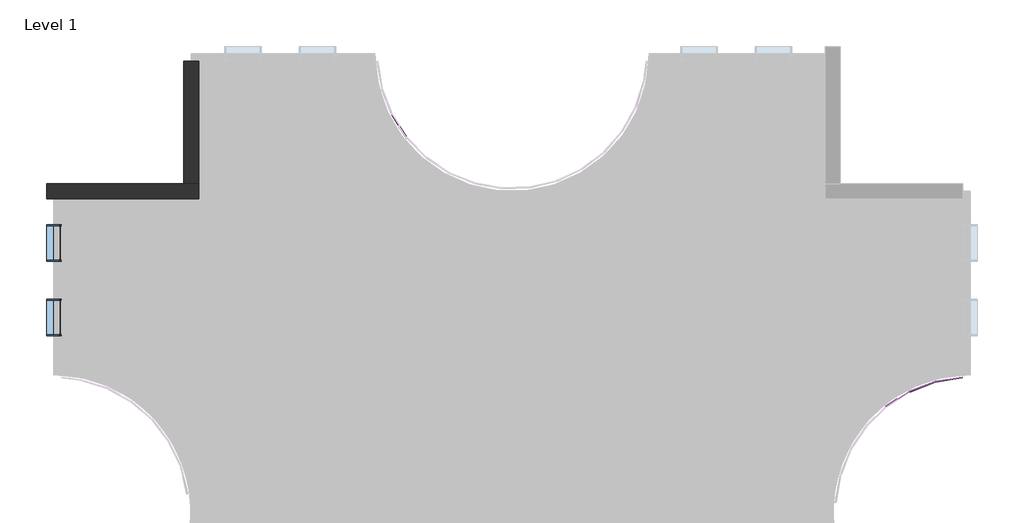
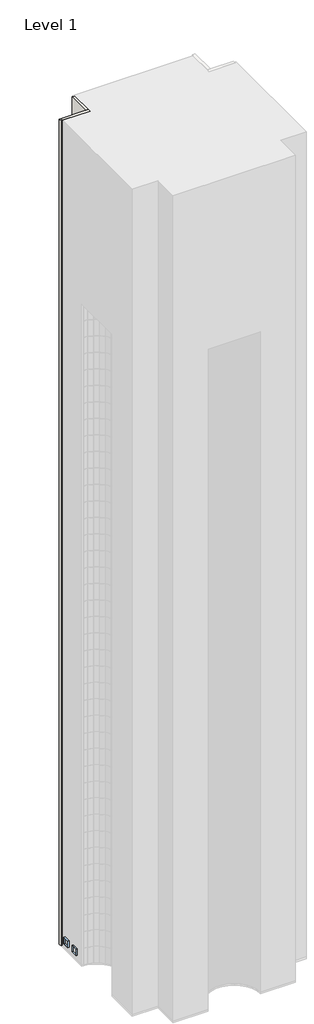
# One storey, part 15 of 20: 118 plates, 2 walls, 2 windows.
"""IFC4 building model written with IfcOpenShell, lengths in millimetres."""

from ifc_helpers import new_model, si_unit, origin, origin_with_axes, place, context, project, spatial, polyline, outline, extrude, faceted_brep, transform, mapped, element, save
from components import system_panel_glazed_d77d1ebf, window_d0035ecf, window_d434eb62

model = new_model("IFC4")

# Units and contexts
model_context = context("Model", 3, world=origin())
ifc_project = project(units=[si_unit("LENGTHUNIT", "METRE", prefix="MILLI")], contexts=[model_context])

# Site, building, storey
site = spatial("IfcSite", under=ifc_project)
building = spatial("IfcBuilding", under=site)
storey = spatial("IfcBuildingStorey", under=building, Name="Level 1", Elevation=0.0)

# Plates
placement = place(None, origin())
system_panel_glazed_shape = system_panel_glazed_d77d1ebf(model_context)
element("IfcPlate", 1, ObjectType="System Panel : Glazed", at=placement, inside=storey, context=model_context, shape_type="MappedRepresentation", body=[
    mapped(system_panel_glazed_shape, transform((18055.406941, -1819.8011089, 0.0), x_axis=(-0.9873252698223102, -0.1587098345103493, 0.0), y_axis=(0.1587098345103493, -0.9873252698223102, 0.0), z_axis=(0.0, 0.0, 1.0))),
])
element("IfcPlate", 2, ObjectType="System Panel : Glazed", at=placement, inside=storey, context=model_context, shape_type="MappedRepresentation", body=[
    mapped(system_panel_glazed_shape, transform((18055.406941, -1819.8011089, 3048.0), x_axis=(-0.9873252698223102, -0.1587098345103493, 0.0), y_axis=(0.1587098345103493, -0.9873252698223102, 0.0), z_axis=(0.0, 0.0, 1.0))),
])
element("IfcPlate", 3, ObjectType="System Panel : Glazed", at=placement, inside=storey, context=model_context, shape_type="MappedRepresentation", body=[
    mapped(system_panel_glazed_shape, transform((18055.406941, -1819.8011089, 6096.0), x_axis=(-0.9873252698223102, -0.1587098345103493, 0.0), y_axis=(0.1587098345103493, -0.9873252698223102, 0.0), z_axis=(0.0, 0.0, 1.0))),
])
element("IfcPlate", 4, ObjectType="System Panel : Glazed", at=placement, inside=storey, context=model_context, shape_type="MappedRepresentation", body=[
    mapped(system_panel_glazed_shape, transform((18055.406941, -1819.8011089, 9144.0), x_axis=(-0.9873252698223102, -0.1587098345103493, 0.0), y_axis=(0.1587098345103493, -0.9873252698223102, 0.0), z_axis=(0.0, 0.0, 1.0))),
])
element("IfcPlate", 5, ObjectType="System Panel : Glazed", at=placement, inside=storey, context=model_context, shape_type="MappedRepresentation", body=[
    mapped(system_panel_glazed_shape, transform((18055.406941, -1819.8011089, 12192.0), x_axis=(-0.9873252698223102, -0.1587098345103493, 0.0), y_axis=(0.1587098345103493, -0.9873252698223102, 0.0), z_axis=(0.0, 0.0, 1.0))),
])
element("IfcPlate", 6, ObjectType="System Panel : Glazed", at=placement, inside=storey, context=model_context, shape_type="MappedRepresentation", body=[
    mapped(system_panel_glazed_shape, transform((18055.406941, -1819.8011089, 15240.0), x_axis=(-0.9873252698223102, -0.1587098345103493, 0.0), y_axis=(0.1587098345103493, -0.9873252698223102, 0.0), z_axis=(0.0, 0.0, 1.0))),
])
element("IfcPlate", 7, ObjectType="System Panel : Glazed", at=placement, inside=storey, context=model_context, shape_type="MappedRepresentation", body=[
    mapped(system_panel_glazed_shape, transform((18055.406941, -1819.8011089, 18288.0), x_axis=(-0.9873252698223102, -0.15870983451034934, 0.0), y_axis=(0.15870983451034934, -0.9873252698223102, 0.0), z_axis=(0.0, 0.0, 1.0))),
])
element("IfcPlate", 8, ObjectType="System Panel : Glazed", at=placement, inside=storey, context=model_context, shape_type="MappedRepresentation", body=[
    mapped(system_panel_glazed_shape, transform((18055.406941, -1819.8011089, 21336.0), x_axis=(-0.9873252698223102, -0.1587098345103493, 0.0), y_axis=(0.1587098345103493, -0.9873252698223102, 0.0), z_axis=(0.0, 0.0, 1.0))),
])
element("IfcPlate", 9, ObjectType="System Panel : Glazed", at=placement, inside=storey, context=model_context, shape_type="MappedRepresentation", body=[
    mapped(system_panel_glazed_shape, transform((18055.406941, -1819.8011089, 24384.0), x_axis=(-0.9873252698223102, -0.1587098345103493, 0.0), y_axis=(0.1587098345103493, -0.9873252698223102, 0.0), z_axis=(0.0, 0.0, 1.0))),
])
element("IfcPlate", 10, ObjectType="System Panel : Glazed", at=placement, inside=storey, context=model_context, shape_type="MappedRepresentation", body=[
    mapped(system_panel_glazed_shape, transform((18055.406941, -1819.8011089, 27432.0), x_axis=(-0.9873252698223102, -0.1587098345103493, 0.0), y_axis=(0.1587098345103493, -0.9873252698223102, 0.0), z_axis=(0.0, 0.0, 1.0))),
])
element("IfcPlate", 11, ObjectType="System Panel : Glazed", at=placement, inside=storey, context=model_context, shape_type="MappedRepresentation", body=[
    mapped(system_panel_glazed_shape, transform((18055.406941, -1819.8011089, 30480.0), x_axis=(-0.9873252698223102, -0.1587098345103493, 0.0), y_axis=(0.1587098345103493, -0.9873252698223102, 0.0), z_axis=(0.0, 0.0, 1.0))),
])
element("IfcPlate", 12, ObjectType="System Panel : Glazed", at=placement, inside=storey, context=model_context, shape_type="MappedRepresentation", body=[
    mapped(system_panel_glazed_shape, transform((18055.406941, -1819.8011089, 33528.0), x_axis=(-0.9873252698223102, -0.1587098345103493, 0.0), y_axis=(0.1587098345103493, -0.9873252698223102, 0.0), z_axis=(0.0, 0.0, 1.0))),
])
element("IfcPlate", 13, ObjectType="System Panel : Glazed", at=placement, inside=storey, context=model_context, shape_type="MappedRepresentation", body=[
    mapped(system_panel_glazed_shape, transform((18055.406941, -1819.8011089, 36576.0), x_axis=(-0.9873252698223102, -0.1587098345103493, 0.0), y_axis=(0.1587098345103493, -0.9873252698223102, 0.0), z_axis=(0.0, 0.0, 1.0))),
])
element("IfcPlate", 14, ObjectType="System Panel : Glazed", at=placement, inside=storey, context=model_context, shape_type="MappedRepresentation", body=[
    mapped(system_panel_glazed_shape, transform((18055.406941, -1819.8011089, 39624.0), x_axis=(-0.9873252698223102, -0.1587098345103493, 0.0), y_axis=(0.1587098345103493, -0.9873252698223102, 0.0), z_axis=(0.0, 0.0, 1.0))),
])
element("IfcPlate", 15, ObjectType="System Panel : Glazed", at=placement, inside=storey, context=model_context, shape_type="MappedRepresentation", body=[
    mapped(system_panel_glazed_shape, transform((18055.406941, -1819.8011089, 42672.0), x_axis=(-0.9873252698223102, -0.1587098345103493, 0.0), y_axis=(0.1587098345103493, -0.9873252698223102, 0.0), z_axis=(0.0, 0.0, 1.0))),
])
element("IfcPlate", 16, ObjectType="System Panel : Glazed", at=placement, inside=storey, context=model_context, shape_type="MappedRepresentation", body=[
    mapped(system_panel_glazed_shape, transform((18055.406941, -1819.8011089, 45720.0), x_axis=(-0.9873252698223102, -0.1587098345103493, 0.0), y_axis=(0.1587098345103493, -0.9873252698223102, 0.0), z_axis=(0.0, 0.0, 1.0))),
])
element("IfcPlate", 17, ObjectType="System Panel : Glazed", at=placement, inside=storey, context=model_context, shape_type="MappedRepresentation", body=[
    mapped(system_panel_glazed_shape, transform((18055.406941, -1819.8011089, 48768.0), x_axis=(-0.9873252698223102, -0.1587098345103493, 0.0), y_axis=(0.1587098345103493, -0.9873252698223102, 0.0), z_axis=(0.0, 0.0, 1.0))),
])
element("IfcPlate", 18, ObjectType="System Panel : Glazed", at=placement, inside=storey, context=model_context, shape_type="MappedRepresentation", body=[
    mapped(system_panel_glazed_shape, transform((18055.406941, -1819.8011089, 51816.0), x_axis=(-0.9873252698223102, -0.1587098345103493, 0.0), y_axis=(0.1587098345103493, -0.9873252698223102, 0.0), z_axis=(0.0, 0.0, 1.0))),
])
element("IfcPlate", 19, ObjectType="System Panel : Glazed", at=placement, inside=storey, context=model_context, shape_type="MappedRepresentation", body=[
    mapped(system_panel_glazed_shape, transform((18055.406941, -1819.8011089, 54864.0), x_axis=(-0.9873252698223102, -0.1587098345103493, 0.0), y_axis=(0.1587098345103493, -0.9873252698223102, 0.0), z_axis=(0.0, 0.0, 1.0))),
])
element("IfcPlate", 20, ObjectType="System Panel : Glazed", at=placement, inside=storey, context=model_context, shape_type="MappedRepresentation", body=[
    mapped(system_panel_glazed_shape, transform((18055.406941, -1819.8011089, 57912.0), x_axis=(-0.9873252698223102, -0.1587098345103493, 0.0), y_axis=(0.1587098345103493, -0.9873252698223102, 0.0), z_axis=(0.0, 0.0, 1.0))),
])
element("IfcPlate", 21, ObjectType="System Panel : Glazed", at=placement, inside=storey, context=model_context, shape_type="MappedRepresentation", body=[
    mapped(system_panel_glazed_shape, transform((18055.406941, -1819.8011089, 60960.0), x_axis=(-0.9873252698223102, -0.1587098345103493, 0.0), y_axis=(0.1587098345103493, -0.9873252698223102, 0.0), z_axis=(0.0, 0.0, 1.0))),
])
element("IfcPlate", 22, ObjectType="System Panel : Glazed", at=placement, inside=storey, context=model_context, shape_type="MappedRepresentation", body=[
    mapped(system_panel_glazed_shape, transform((18055.406941, -1819.8011089, 64008.0), x_axis=(-0.9873252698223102, -0.1587098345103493, 0.0), y_axis=(0.1587098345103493, -0.9873252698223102, 0.0), z_axis=(0.0, 0.0, 1.0))),
])
element("IfcPlate", 23, ObjectType="System Panel : Glazed", at=placement, inside=storey, context=model_context, shape_type="MappedRepresentation", body=[
    mapped(system_panel_glazed_shape, transform((18055.406941, -1819.8011089, 67056.0), x_axis=(-0.9873252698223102, -0.1587098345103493, 0.0), y_axis=(0.1587098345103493, -0.9873252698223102, 0.0), z_axis=(0.0, 0.0, 1.0))),
])
element("IfcPlate", 24, ObjectType="System Panel : Glazed", at=placement, inside=storey, context=model_context, shape_type="MappedRepresentation", body=[
    mapped(system_panel_glazed_shape, transform((18055.406941, -1819.8011089, 70104.0), x_axis=(-0.9873252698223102, -0.1587098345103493, 0.0), y_axis=(0.1587098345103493, -0.9873252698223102, 0.0), z_axis=(0.0, 0.0, 1.0))),
])
element("IfcPlate", 25, ObjectType="System Panel : Glazed", at=placement, inside=storey, context=model_context, shape_type="MappedRepresentation", body=[
    mapped(system_panel_glazed_shape, transform((18055.406941, -1819.8011089, 73152.0), x_axis=(-0.9873252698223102, -0.1587098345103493, 0.0), y_axis=(0.1587098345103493, -0.9873252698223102, 0.0), z_axis=(0.0, 0.0, 1.0))),
])
element("IfcPlate", 26, ObjectType="System Panel : Glazed", at=placement, inside=storey, context=model_context, shape_type="MappedRepresentation", body=[
    mapped(system_panel_glazed_shape, transform((18055.406941, -1819.8011089, 76200.0), x_axis=(-0.9873252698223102, -0.1587098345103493, 0.0), y_axis=(0.1587098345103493, -0.9873252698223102, 0.0), z_axis=(0.0, 0.0, 1.0))),
])
element("IfcPlate", 27, ObjectType="System Panel : Glazed", at=placement, inside=storey, context=model_context, shape_type="MappedRepresentation", body=[
    mapped(system_panel_glazed_shape, transform((18055.406941, -1819.8011089, 79248.0), x_axis=(-0.9873252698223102, -0.1587098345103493, 0.0), y_axis=(0.1587098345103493, -0.9873252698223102, 0.0), z_axis=(0.0, 0.0, 1.0))),
])
element("IfcPlate", 28, ObjectType="System Panel : Glazed", at=placement, inside=storey, context=model_context, shape_type="MappedRepresentation", body=[
    mapped(system_panel_glazed_shape, transform((18055.406941, -1819.8011089, 82296.0), x_axis=(-0.9873252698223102, -0.1587098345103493, 0.0), y_axis=(0.1587098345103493, -0.9873252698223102, 0.0), z_axis=(0.0, 0.0, 1.0))),
])
element("IfcPlate", 29, ObjectType="System Panel : Glazed", at=placement, inside=storey, context=model_context, shape_type="MappedRepresentation", body=[
    mapped(system_panel_glazed_shape, transform((18055.406941, -1819.8011089, 85344.0), x_axis=(-0.9873252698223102, -0.1587098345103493, 0.0), y_axis=(0.1587098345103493, -0.9873252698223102, 0.0), z_axis=(0.0, 0.0, 1.0))),
])
element("IfcPlate", 30, ObjectType="System Panel : Glazed", at=placement, inside=storey, context=model_context, shape_type="MappedRepresentation", body=[
    mapped(system_panel_glazed_shape, transform((18055.406941, -1819.8011089, 88392.0), x_axis=(-0.9873252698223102, -0.1587098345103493, 0.0), y_axis=(0.1587098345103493, -0.9873252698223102, 0.0), z_axis=(0.0, 0.0, 1.0))),
])
element("IfcPlate", 31, ObjectType="System Panel : Glazed", at=placement, inside=storey, context=model_context, shape_type="MappedRepresentation", body=[
    mapped(system_panel_glazed_shape, transform((18055.406941, -1819.8011089, 91440.0), x_axis=(-0.9873252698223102, -0.1587098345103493, 0.0), y_axis=(0.1587098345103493, -0.9873252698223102, 0.0), z_axis=(0.0, 0.0, 1.0))),
])
element("IfcPlate", 32, ObjectType="System Panel : Glazed", at=placement, inside=storey, context=model_context, shape_type="MappedRepresentation", body=[
    mapped(system_panel_glazed_shape, transform((18055.406941, -1819.8011089, 94488.0), x_axis=(-0.9873252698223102, -0.1587098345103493, 0.0), y_axis=(0.1587098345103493, -0.9873252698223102, 0.0), z_axis=(0.0, 0.0, 1.0))),
])
element("IfcPlate", 33, ObjectType="System Panel : Glazed", at=placement, inside=storey, context=model_context, shape_type="MappedRepresentation", body=[
    mapped(system_panel_glazed_shape, transform((18055.406941, -1819.8011089, 97536.0), x_axis=(-0.9873252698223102, -0.1587098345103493, 0.0), y_axis=(0.1587098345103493, -0.9873252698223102, 0.0), z_axis=(0.0, 0.0, 1.0))),
])
element("IfcPlate", 34, ObjectType="System Panel : Glazed", at=placement, inside=storey, context=model_context, shape_type="MappedRepresentation", body=[
    mapped(system_panel_glazed_shape, transform((18055.406941, -1819.8011089, 100584.0), x_axis=(-0.9873252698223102, -0.1587098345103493, 0.0), y_axis=(0.1587098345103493, -0.9873252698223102, 0.0), z_axis=(0.0, 0.0, 1.0))),
])
element("IfcPlate", 35, ObjectType="System Panel : Glazed", at=placement, inside=storey, context=model_context, shape_type="MappedRepresentation", body=[
    mapped(system_panel_glazed_shape, transform((16365.3324925, -2466.2258707, 73152.0), x_axis=(-0.8412279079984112, -0.540680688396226, 0.0), y_axis=(0.540680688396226, -0.8412279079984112, 0.0), z_axis=(0.0, 0.0, 1.0))),
])
element("IfcPlate", 36, ObjectType="System Panel : Glazed", at=placement, inside=storey, context=model_context, shape_type="MappedRepresentation", body=[
    mapped(system_panel_glazed_shape, transform((16365.3324925, -2466.2258707, 76200.0), x_axis=(-0.8412279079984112, -0.540680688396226, 0.0), y_axis=(0.540680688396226, -0.8412279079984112, 0.0), z_axis=(0.0, 0.0, 1.0))),
])
element("IfcPlate", 37, ObjectType="System Panel : Glazed", at=placement, inside=storey, context=model_context, shape_type="MappedRepresentation", body=[
    mapped(system_panel_glazed_shape, transform((16365.3324925, -2466.2258707, 79248.0), x_axis=(-0.8412279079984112, -0.540680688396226, 0.0), y_axis=(0.540680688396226, -0.8412279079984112, 0.0), z_axis=(0.0, 0.0, 1.0))),
])
element("IfcPlate", 38, ObjectType="System Panel : Glazed", at=placement, inside=storey, context=model_context, shape_type="MappedRepresentation", body=[
    mapped(system_panel_glazed_shape, transform((16365.3324925, -2466.2258707, 82296.0), x_axis=(-0.8412279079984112, -0.540680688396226, 0.0), y_axis=(0.540680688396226, -0.8412279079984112, 0.0), z_axis=(0.0, 0.0, 1.0))),
])
element("IfcPlate", 39, ObjectType="System Panel : Glazed", at=placement, inside=storey, context=model_context, shape_type="MappedRepresentation", body=[
    mapped(system_panel_glazed_shape, transform((16365.3324925, -2466.2258707, 85344.0), x_axis=(-0.8412279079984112, -0.540680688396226, 0.0), y_axis=(0.540680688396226, -0.8412279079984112, 0.0), z_axis=(0.0, 0.0, 1.0))),
])
element("IfcPlate", 40, ObjectType="System Panel : Glazed", at=placement, inside=storey, context=model_context, shape_type="MappedRepresentation", body=[
    mapped(system_panel_glazed_shape, transform((16365.3324925, -2466.2258707, 88392.0), x_axis=(-0.8412279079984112, -0.540680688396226, 0.0), y_axis=(0.540680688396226, -0.8412279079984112, 0.0), z_axis=(0.0, 0.0, 1.0))),
])
element("IfcPlate", 41, ObjectType="System Panel : Glazed", at=placement, inside=storey, context=model_context, shape_type="MappedRepresentation", body=[
    mapped(system_panel_glazed_shape, transform((16365.3324925, -2466.2258707, 91440.0), x_axis=(-0.8412279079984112, -0.540680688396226, 0.0), y_axis=(0.540680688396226, -0.8412279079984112, 0.0), z_axis=(0.0, 0.0, 1.0))),
])
element("IfcPlate", 42, ObjectType="System Panel : Glazed", at=placement, inside=storey, context=model_context, shape_type="MappedRepresentation", body=[
    mapped(system_panel_glazed_shape, transform((16365.3324925, -2466.2258707, 94488.0), x_axis=(-0.8412279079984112, -0.540680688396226, 0.0), y_axis=(0.540680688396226, -0.8412279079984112, 0.0), z_axis=(0.0, 0.0, 1.0))),
])
element("IfcPlate", 43, ObjectType="System Panel : Glazed", at=placement, inside=storey, context=model_context, shape_type="MappedRepresentation", body=[
    mapped(system_panel_glazed_shape, transform((16365.3324925, -2466.2258707, 97536.0), x_axis=(-0.8412279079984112, -0.540680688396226, 0.0), y_axis=(0.540680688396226, -0.8412279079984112, 0.0), z_axis=(0.0, 0.0, 1.0))),
])
element("IfcPlate", 44, ObjectType="System Panel : Glazed", at=placement, inside=storey, context=model_context, shape_type="MappedRepresentation", body=[
    mapped(system_panel_glazed_shape, transform((16365.3324925, -2466.2258707, 100584.0), x_axis=(-0.8412279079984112, -0.540680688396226, 0.0), y_axis=(0.540680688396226, -0.8412279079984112, 0.0), z_axis=(0.0, 0.0, 1.0))),
])
element("IfcPlate", 45, ObjectType="System Panel : Glazed", at=placement, inside=storey, context=model_context, shape_type="MappedRepresentation", body=[
    mapped(system_panel_glazed_shape, transform((17176.9718599, -2055.6949526, 0.0), x_axis=(-0.9340113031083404, -0.35724345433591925, 0.0), y_axis=(0.35724345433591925, -0.9340113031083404, 0.0), z_axis=(0.0, 0.0, 1.0))),
])
element("IfcPlate", 46, ObjectType="System Panel : Glazed", at=placement, inside=storey, context=model_context, shape_type="MappedRepresentation", body=[
    mapped(system_panel_glazed_shape, transform((17176.9718599, -2055.6949526, 3048.0), x_axis=(-0.9340113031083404, -0.35724345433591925, 0.0), y_axis=(0.35724345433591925, -0.9340113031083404, 0.0), z_axis=(0.0, 0.0, 1.0))),
])
element("IfcPlate", 47, ObjectType="System Panel : Glazed", at=placement, inside=storey, context=model_context, shape_type="MappedRepresentation", body=[
    mapped(system_panel_glazed_shape, transform((17176.9718599, -2055.6949526, 6096.0), x_axis=(-0.9340113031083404, -0.35724345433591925, 0.0), y_axis=(0.35724345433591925, -0.9340113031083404, 0.0), z_axis=(0.0, 0.0, 1.0))),
])
element("IfcPlate", 48, ObjectType="System Panel : Glazed", at=placement, inside=storey, context=model_context, shape_type="MappedRepresentation", body=[
    mapped(system_panel_glazed_shape, transform((17176.9718599, -2055.6949526, 9144.0), x_axis=(-0.9340113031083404, -0.35724345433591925, 0.0), y_axis=(0.35724345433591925, -0.9340113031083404, 0.0), z_axis=(0.0, 0.0, 1.0))),
])
element("IfcPlate", 49, ObjectType="System Panel : Glazed", at=placement, inside=storey, context=model_context, shape_type="MappedRepresentation", body=[
    mapped(system_panel_glazed_shape, transform((17176.9718599, -2055.6949526, 12192.0), x_axis=(-0.9340113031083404, -0.35724345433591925, 0.0), y_axis=(0.35724345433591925, -0.9340113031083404, 0.0), z_axis=(0.0, 0.0, 1.0))),
])
element("IfcPlate", 50, ObjectType="System Panel : Glazed", at=placement, inside=storey, context=model_context, shape_type="MappedRepresentation", body=[
    mapped(system_panel_glazed_shape, transform((17176.9718599, -2055.6949526, 15240.0), x_axis=(-0.9340113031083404, -0.35724345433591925, 0.0), y_axis=(0.35724345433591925, -0.9340113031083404, 0.0), z_axis=(0.0, 0.0, 1.0))),
])
element("IfcPlate", 51, ObjectType="System Panel : Glazed", at=placement, inside=storey, context=model_context, shape_type="MappedRepresentation", body=[
    mapped(system_panel_glazed_shape, transform((17176.9718599, -2055.6949526, 18288.0), x_axis=(-0.9340113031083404, -0.3572434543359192, 0.0), y_axis=(0.3572434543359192, -0.9340113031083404, 0.0), z_axis=(0.0, 0.0, 1.0))),
])
element("IfcPlate", 52, ObjectType="System Panel : Glazed", at=placement, inside=storey, context=model_context, shape_type="MappedRepresentation", body=[
    mapped(system_panel_glazed_shape, transform((17176.9718599, -2055.6949526, 21336.0), x_axis=(-0.9340113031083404, -0.35724345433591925, 0.0), y_axis=(0.35724345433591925, -0.9340113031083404, 0.0), z_axis=(0.0, 0.0, 1.0))),
])
element("IfcPlate", 53, ObjectType="System Panel : Glazed", at=placement, inside=storey, context=model_context, shape_type="MappedRepresentation", body=[
    mapped(system_panel_glazed_shape, transform((17176.9718599, -2055.6949526, 24384.0), x_axis=(-0.9340113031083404, -0.35724345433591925, 0.0), y_axis=(0.35724345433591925, -0.9340113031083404, 0.0), z_axis=(0.0, 0.0, 1.0))),
])
element("IfcPlate", 54, ObjectType="System Panel : Glazed", at=placement, inside=storey, context=model_context, shape_type="MappedRepresentation", body=[
    mapped(system_panel_glazed_shape, transform((17176.9718599, -2055.6949526, 27432.0), x_axis=(-0.9340113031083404, -0.35724345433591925, 0.0), y_axis=(0.35724345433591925, -0.9340113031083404, 0.0), z_axis=(0.0, 0.0, 1.0))),
])
element("IfcPlate", 55, ObjectType="System Panel : Glazed", at=placement, inside=storey, context=model_context, shape_type="MappedRepresentation", body=[
    mapped(system_panel_glazed_shape, transform((17176.9718599, -2055.6949526, 30480.0), x_axis=(-0.9340113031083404, -0.35724345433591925, 0.0), y_axis=(0.35724345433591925, -0.9340113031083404, 0.0), z_axis=(0.0, 0.0, 1.0))),
])
element("IfcPlate", 56, ObjectType="System Panel : Glazed", at=placement, inside=storey, context=model_context, shape_type="MappedRepresentation", body=[
    mapped(system_panel_glazed_shape, transform((17176.9718599, -2055.6949526, 33528.0), x_axis=(-0.9340113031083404, -0.35724345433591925, 0.0), y_axis=(0.35724345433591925, -0.9340113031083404, 0.0), z_axis=(0.0, 0.0, 1.0))),
])
element("IfcPlate", 57, ObjectType="System Panel : Glazed", at=placement, inside=storey, context=model_context, shape_type="MappedRepresentation", body=[
    mapped(system_panel_glazed_shape, transform((17176.9718599, -2055.6949526, 36576.0), x_axis=(-0.9340113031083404, -0.35724345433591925, 0.0), y_axis=(0.35724345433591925, -0.9340113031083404, 0.0), z_axis=(0.0, 0.0, 1.0))),
])
element("IfcPlate", 58, ObjectType="System Panel : Glazed", at=placement, inside=storey, context=model_context, shape_type="MappedRepresentation", body=[
    mapped(system_panel_glazed_shape, transform((17176.9718599, -2055.6949526, 39624.0), x_axis=(-0.9340113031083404, -0.35724345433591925, 0.0), y_axis=(0.35724345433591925, -0.9340113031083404, 0.0), z_axis=(0.0, 0.0, 1.0))),
])
element("IfcPlate", 59, ObjectType="System Panel : Glazed", at=placement, inside=storey, context=model_context, shape_type="MappedRepresentation", body=[
    mapped(system_panel_glazed_shape, transform((17176.9718599, -2055.6949526, 42672.0), x_axis=(-0.9340113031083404, -0.35724345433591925, 0.0), y_axis=(0.35724345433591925, -0.9340113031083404, 0.0), z_axis=(0.0, 0.0, 1.0))),
])
element("IfcPlate", 60, ObjectType="System Panel : Glazed", at=placement, inside=storey, context=model_context, shape_type="MappedRepresentation", body=[
    mapped(system_panel_glazed_shape, transform((17176.9718599, -2055.6949526, 45720.0), x_axis=(-0.9340113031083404, -0.35724345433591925, 0.0), y_axis=(0.35724345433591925, -0.9340113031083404, 0.0), z_axis=(0.0, 0.0, 1.0))),
])
element("IfcPlate", 61, ObjectType="System Panel : Glazed", at=placement, inside=storey, context=model_context, shape_type="MappedRepresentation", body=[
    mapped(system_panel_glazed_shape, transform((17176.9718599, -2055.6949526, 48768.0), x_axis=(-0.9340113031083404, -0.35724345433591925, 0.0), y_axis=(0.35724345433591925, -0.9340113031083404, 0.0), z_axis=(0.0, 0.0, 1.0))),
])
element("IfcPlate", 62, ObjectType="System Panel : Glazed", at=placement, inside=storey, context=model_context, shape_type="MappedRepresentation", body=[
    mapped(system_panel_glazed_shape, transform((17176.9718599, -2055.6949526, 51816.0), x_axis=(-0.9340113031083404, -0.35724345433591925, 0.0), y_axis=(0.35724345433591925, -0.9340113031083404, 0.0), z_axis=(0.0, 0.0, 1.0))),
])
element("IfcPlate", 63, ObjectType="System Panel : Glazed", at=placement, inside=storey, context=model_context, shape_type="MappedRepresentation", body=[
    mapped(system_panel_glazed_shape, transform((17176.9718599, -2055.6949526, 54864.0), x_axis=(-0.9340113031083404, -0.35724345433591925, 0.0), y_axis=(0.35724345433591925, -0.9340113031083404, 0.0), z_axis=(0.0, 0.0, 1.0))),
])
element("IfcPlate", 64, ObjectType="System Panel : Glazed", at=placement, inside=storey, context=model_context, shape_type="MappedRepresentation", body=[
    mapped(system_panel_glazed_shape, transform((17176.9718599, -2055.6949526, 57912.0), x_axis=(-0.9340113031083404, -0.35724345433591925, 0.0), y_axis=(0.35724345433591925, -0.9340113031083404, 0.0), z_axis=(0.0, 0.0, 1.0))),
])
element("IfcPlate", 65, ObjectType="System Panel : Glazed", at=placement, inside=storey, context=model_context, shape_type="MappedRepresentation", body=[
    mapped(system_panel_glazed_shape, transform((17176.9718599, -2055.6949526, 60960.0), x_axis=(-0.9340113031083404, -0.35724345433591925, 0.0), y_axis=(0.35724345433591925, -0.9340113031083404, 0.0), z_axis=(0.0, 0.0, 1.0))),
])
element("IfcPlate", 66, ObjectType="System Panel : Glazed", at=placement, inside=storey, context=model_context, shape_type="MappedRepresentation", body=[
    mapped(system_panel_glazed_shape, transform((17176.9718599, -2055.6949526, 64008.0), x_axis=(-0.9340113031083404, -0.35724345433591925, 0.0), y_axis=(0.35724345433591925, -0.9340113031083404, 0.0), z_axis=(0.0, 0.0, 1.0))),
])
element("IfcPlate", 67, ObjectType="System Panel : Glazed", at=placement, inside=storey, context=model_context, shape_type="MappedRepresentation", body=[
    mapped(system_panel_glazed_shape, transform((17176.9718599, -2055.6949526, 67056.0), x_axis=(-0.9340113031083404, -0.35724345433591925, 0.0), y_axis=(0.35724345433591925, -0.9340113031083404, 0.0), z_axis=(0.0, 0.0, 1.0))),
])
element("IfcPlate", 68, ObjectType="System Panel : Glazed", at=placement, inside=storey, context=model_context, shape_type="MappedRepresentation", body=[
    mapped(system_panel_glazed_shape, transform((17176.9718599, -2055.6949526, 70104.0), x_axis=(-0.9340113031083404, -0.35724345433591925, 0.0), y_axis=(0.35724345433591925, -0.9340113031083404, 0.0), z_axis=(0.0, 0.0, 1.0))),
])
element("IfcPlate", 69, ObjectType="System Panel : Glazed", at=placement, inside=storey, context=model_context, shape_type="MappedRepresentation", body=[
    mapped(system_panel_glazed_shape, transform((17176.9718599, -2055.6949526, 73152.0), x_axis=(-0.9340113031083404, -0.35724345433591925, 0.0), y_axis=(0.35724345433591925, -0.9340113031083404, 0.0), z_axis=(0.0, 0.0, 1.0))),
])
element("IfcPlate", 70, ObjectType="System Panel : Glazed", at=placement, inside=storey, context=model_context, shape_type="MappedRepresentation", body=[
    mapped(system_panel_glazed_shape, transform((17176.9718599, -2055.6949526, 76200.0), x_axis=(-0.9340113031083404, -0.35724345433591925, 0.0), y_axis=(0.35724345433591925, -0.9340113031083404, 0.0), z_axis=(0.0, 0.0, 1.0))),
])
element("IfcPlate", 71, ObjectType="System Panel : Glazed", at=placement, inside=storey, context=model_context, shape_type="MappedRepresentation", body=[
    mapped(system_panel_glazed_shape, transform((17176.9718599, -2055.6949526, 79248.0), x_axis=(-0.9340113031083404, -0.35724345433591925, 0.0), y_axis=(0.35724345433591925, -0.9340113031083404, 0.0), z_axis=(0.0, 0.0, 1.0))),
])
element("IfcPlate", 72, ObjectType="System Panel : Glazed", at=placement, inside=storey, context=model_context, shape_type="MappedRepresentation", body=[
    mapped(system_panel_glazed_shape, transform((17176.9718599, -2055.6949526, 82296.0), x_axis=(-0.9340113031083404, -0.35724345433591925, 0.0), y_axis=(0.35724345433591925, -0.9340113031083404, 0.0), z_axis=(0.0, 0.0, 1.0))),
])
element("IfcPlate", 73, ObjectType="System Panel : Glazed", at=placement, inside=storey, context=model_context, shape_type="MappedRepresentation", body=[
    mapped(system_panel_glazed_shape, transform((17176.9718599, -2055.6949526, 85344.0), x_axis=(-0.9340113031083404, -0.35724345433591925, 0.0), y_axis=(0.35724345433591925, -0.9340113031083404, 0.0), z_axis=(0.0, 0.0, 1.0))),
])
element("IfcPlate", 74, ObjectType="System Panel : Glazed", at=placement, inside=storey, context=model_context, shape_type="MappedRepresentation", body=[
    mapped(system_panel_glazed_shape, transform((17176.9718599, -2055.6949526, 88392.0), x_axis=(-0.9340113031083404, -0.35724345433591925, 0.0), y_axis=(0.35724345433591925, -0.9340113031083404, 0.0), z_axis=(0.0, 0.0, 1.0))),
])
element("IfcPlate", 75, ObjectType="System Panel : Glazed", at=placement, inside=storey, context=model_context, shape_type="MappedRepresentation", body=[
    mapped(system_panel_glazed_shape, transform((17176.9718599, -2055.6949526, 91440.0), x_axis=(-0.9340113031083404, -0.35724345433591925, 0.0), y_axis=(0.35724345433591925, -0.9340113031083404, 0.0), z_axis=(0.0, 0.0, 1.0))),
])
element("IfcPlate", 76, ObjectType="System Panel : Glazed", at=placement, inside=storey, context=model_context, shape_type="MappedRepresentation", body=[
    mapped(system_panel_glazed_shape, transform((17176.9718599, -2055.6949526, 94488.0), x_axis=(-0.9340113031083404, -0.35724345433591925, 0.0), y_axis=(0.35724345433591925, -0.9340113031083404, 0.0), z_axis=(0.0, 0.0, 1.0))),
])
element("IfcPlate", 77, ObjectType="System Panel : Glazed", at=placement, inside=storey, context=model_context, shape_type="MappedRepresentation", body=[
    mapped(system_panel_glazed_shape, transform((17176.9718599, -2055.6949526, 97536.0), x_axis=(-0.9340113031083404, -0.35724345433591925, 0.0), y_axis=(0.35724345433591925, -0.9340113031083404, 0.0), z_axis=(0.0, 0.0, 1.0))),
])
element("IfcPlate", 78, ObjectType="System Panel : Glazed", at=placement, inside=storey, context=model_context, shape_type="MappedRepresentation", body=[
    mapped(system_panel_glazed_shape, transform((17176.9718599, -2055.6949526, 100584.0), x_axis=(-0.9340113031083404, -0.35724345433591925, 0.0), y_axis=(0.35724345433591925, -0.9340113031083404, 0.0), z_axis=(0.0, 0.0, 1.0))),
])
element("IfcPlate", 79, ObjectType="System Panel : Glazed", at=placement, inside=storey, context=model_context, shape_type="MappedRepresentation", body=[
    mapped(system_panel_glazed_shape, transform((18055.406941, -1819.8011089, 103632.0), x_axis=(-0.9873252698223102, -0.1587098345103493, 0.0), y_axis=(0.1587098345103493, -0.9873252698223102, 0.0), z_axis=(0.0, 0.0, 1.0))),
])
element("IfcPlate", 80, ObjectType="System Panel : Glazed", at=placement, inside=storey, context=model_context, shape_type="MappedRepresentation", body=[
    mapped(system_panel_glazed_shape, transform((16365.3324925, -2466.2258707, 103632.0), x_axis=(-0.8412279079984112, -0.540680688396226, 0.0), y_axis=(0.540680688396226, -0.8412279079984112, 0.0), z_axis=(0.0, 0.0, 1.0))),
])
element("IfcPlate", 81, ObjectType="System Panel : Glazed", at=placement, inside=storey, context=model_context, shape_type="MappedRepresentation", body=[
    mapped(system_panel_glazed_shape, transform((17176.9718599, -2055.6949526, 103632.0), x_axis=(-0.9340113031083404, -0.35724345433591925, 0.0), y_axis=(0.35724345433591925, -0.9340113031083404, 0.0), z_axis=(0.0, 0.0, 1.0))),
])
element("IfcPlate", 82, ObjectType="System Panel : Glazed", at=placement, inside=storey, context=model_context, shape_type="MappedRepresentation", body=[
    mapped(system_panel_glazed_shape, transform((18055.406941, -1819.8011089, 106680.0), x_axis=(-0.9873252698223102, -0.1587098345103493, 0.0), y_axis=(0.1587098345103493, -0.9873252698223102, 0.0), z_axis=(0.0, 0.0, 1.0))),
])
element("IfcPlate", 83, ObjectType="System Panel : Glazed", at=placement, inside=storey, context=model_context, shape_type="MappedRepresentation", body=[
    mapped(system_panel_glazed_shape, transform((16365.3324925, -2466.2258707, 106680.0), x_axis=(-0.8412279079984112, -0.540680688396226, 0.0), y_axis=(0.540680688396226, -0.8412279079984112, 0.0), z_axis=(0.0, 0.0, 1.0))),
])
element("IfcPlate", 84, ObjectType="System Panel : Glazed", at=placement, inside=storey, context=model_context, shape_type="MappedRepresentation", body=[
    mapped(system_panel_glazed_shape, transform((17176.9718599, -2055.6949526, 106680.0), x_axis=(-0.9340113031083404, -0.35724345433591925, 0.0), y_axis=(0.35724345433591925, -0.9340113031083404, 0.0), z_axis=(0.0, 0.0, 1.0))),
])
element("IfcPlate", 85, ObjectType="System Panel : Glazed", at=placement, inside=storey, context=model_context, shape_type="MappedRepresentation", body=[
    mapped(system_panel_glazed_shape, transform((18055.406941, -1819.8011089, 109728.0), x_axis=(-0.9873252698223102, -0.1587098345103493, 0.0), y_axis=(0.1587098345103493, -0.9873252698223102, 0.0), z_axis=(0.0, 0.0, 1.0))),
])
element("IfcPlate", 86, ObjectType="System Panel : Glazed", at=placement, inside=storey, context=model_context, shape_type="MappedRepresentation", body=[
    mapped(system_panel_glazed_shape, transform((16365.3324925, -2466.2258707, 109728.0), x_axis=(-0.8412279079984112, -0.540680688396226, 0.0), y_axis=(0.540680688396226, -0.8412279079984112, 0.0), z_axis=(0.0, 0.0, 1.0))),
])
element("IfcPlate", 87, ObjectType="System Panel : Glazed", at=placement, inside=storey, context=model_context, shape_type="MappedRepresentation", body=[
    mapped(system_panel_glazed_shape, transform((17176.9718599, -2055.6949526, 109728.0), x_axis=(-0.9340113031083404, -0.35724345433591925, 0.0), y_axis=(0.35724345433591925, -0.9340113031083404, 0.0), z_axis=(0.0, 0.0, 1.0))),
])
element("IfcPlate", 88, ObjectType="System Panel : Glazed", at=placement, inside=storey, context=model_context, shape_type="MappedRepresentation", body=[
    mapped(system_panel_glazed_shape, transform((18055.406941, -1819.8011089, 112776.0), x_axis=(-0.9873252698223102, -0.1587098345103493, 0.0), y_axis=(0.1587098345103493, -0.9873252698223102, 0.0), z_axis=(0.0, 0.0, 1.0))),
])
element("IfcPlate", 89, ObjectType="System Panel : Glazed", at=placement, inside=storey, context=model_context, shape_type="MappedRepresentation", body=[
    mapped(system_panel_glazed_shape, transform((16365.3324925, -2466.2258707, 112776.0), x_axis=(-0.8412279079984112, -0.540680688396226, 0.0), y_axis=(0.540680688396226, -0.8412279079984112, 0.0), z_axis=(0.0, 0.0, 1.0))),
])
element("IfcPlate", 90, ObjectType="System Panel : Glazed", at=placement, inside=storey, context=model_context, shape_type="MappedRepresentation", body=[
    mapped(system_panel_glazed_shape, transform((17176.9718599, -2055.6949526, 112776.0), x_axis=(-0.9340113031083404, -0.35724345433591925, 0.0), y_axis=(0.35724345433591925, -0.9340113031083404, 0.0), z_axis=(0.0, 0.0, 1.0))),
])
element("IfcPlate", 91, ObjectType="System Panel : Glazed", at=placement, inside=storey, context=model_context, shape_type="MappedRepresentation", body=[
    mapped(system_panel_glazed_shape, transform((18055.406941, -1819.8011089, 115824.0), x_axis=(-0.9873252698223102, -0.1587098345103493, 0.0), y_axis=(0.1587098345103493, -0.9873252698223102, 0.0), z_axis=(0.0, 0.0, 1.0))),
])
element("IfcPlate", 92, ObjectType="System Panel : Glazed", at=placement, inside=storey, context=model_context, shape_type="MappedRepresentation", body=[
    mapped(system_panel_glazed_shape, transform((16365.3324925, -2466.2258707, 115824.0), x_axis=(-0.8412279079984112, -0.540680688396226, 0.0), y_axis=(0.540680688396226, -0.8412279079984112, 0.0), z_axis=(0.0, 0.0, 1.0))),
])
element("IfcPlate", 93, ObjectType="System Panel : Glazed", at=placement, inside=storey, context=model_context, shape_type="MappedRepresentation", body=[
    mapped(system_panel_glazed_shape, transform((17176.9718599, -2055.6949526, 115824.0), x_axis=(-0.9340113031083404, -0.35724345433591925, 0.0), y_axis=(0.35724345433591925, -0.9340113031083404, 0.0), z_axis=(0.0, 0.0, 1.0))),
])
element("IfcPlate", 94, ObjectType="System Panel : Glazed", at=placement, inside=storey, context=model_context, shape_type="MappedRepresentation", body=[
    mapped(system_panel_glazed_shape, transform((18055.406941, -1819.8011089, 118872.0), x_axis=(-0.9873252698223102, -0.1587098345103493, 0.0), y_axis=(0.1587098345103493, -0.9873252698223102, 0.0), z_axis=(0.0, 0.0, 1.0))),
])
element("IfcPlate", 95, ObjectType="System Panel : Glazed", at=placement, inside=storey, context=model_context, shape_type="MappedRepresentation", body=[
    mapped(system_panel_glazed_shape, transform((16365.3324925, -2466.2258707, 118872.0), x_axis=(-0.8412279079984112, -0.540680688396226, 0.0), y_axis=(0.540680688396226, -0.8412279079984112, 0.0), z_axis=(0.0, 0.0, 1.0))),
])
element("IfcPlate", 96, ObjectType="System Panel : Glazed", at=placement, inside=storey, context=model_context, shape_type="MappedRepresentation", body=[
    mapped(system_panel_glazed_shape, transform((17176.9718599, -2055.6949526, 118872.0), x_axis=(-0.9340113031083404, -0.35724345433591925, 0.0), y_axis=(0.35724345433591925, -0.9340113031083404, 0.0), z_axis=(0.0, 0.0, 1.0))),
])
element("IfcPlate", 97, ObjectType="System Panel : Glazed", at=placement, inside=storey, context=model_context, shape_type="MappedRepresentation", body=[
    mapped(system_panel_glazed_shape, transform((-204.4736202, 6659.3588929, 0.0), x_axis=(0.5406806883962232, -0.841227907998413, 0.0), y_axis=(0.841227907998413, 0.5406806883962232, 0.0), z_axis=(0.0, 0.0, 1.0))),
])
element("IfcPlate", 98, ObjectType="System Panel : Glazed", at=placement, inside=storey, context=model_context, shape_type="MappedRepresentation", body=[
    mapped(system_panel_glazed_shape, transform((-204.4736202, 6659.3588929, 3048.0), x_axis=(0.5406806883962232, -0.841227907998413, 0.0), y_axis=(0.841227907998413, 0.5406806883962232, 0.0), z_axis=(0.0, 0.0, 1.0))),
])
element("IfcPlate", 99, ObjectType="System Panel : Glazed", at=placement, inside=storey, context=model_context, shape_type="MappedRepresentation", body=[
    mapped(system_panel_glazed_shape, transform((-204.4736202, 6659.3588929, 6096.0), x_axis=(0.5406806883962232, -0.841227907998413, 0.0), y_axis=(0.841227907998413, 0.5406806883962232, 0.0), z_axis=(0.0, 0.0, 1.0))),
])
element("IfcPlate", 100, ObjectType="System Panel : Glazed", at=placement, inside=storey, context=model_context, shape_type="MappedRepresentation", body=[
    mapped(system_panel_glazed_shape, transform((-204.4736202, 6659.3588929, 9144.0), x_axis=(0.5406806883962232, -0.841227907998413, 0.0), y_axis=(0.841227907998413, 0.5406806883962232, 0.0), z_axis=(0.0, 0.0, 1.0))),
])
element("IfcPlate", 101, ObjectType="System Panel : Glazed", at=placement, inside=storey, context=model_context, shape_type="MappedRepresentation", body=[
    mapped(system_panel_glazed_shape, transform((-204.4736202, 6659.3588929, 12192.0), x_axis=(0.5406806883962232, -0.841227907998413, 0.0), y_axis=(0.841227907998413, 0.5406806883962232, 0.0), z_axis=(0.0, 0.0, 1.0))),
])
element("IfcPlate", 102, ObjectType="System Panel : Glazed", at=placement, inside=storey, context=model_context, shape_type="MappedRepresentation", body=[
    mapped(system_panel_glazed_shape, transform((-204.4736202, 6659.3588929, 15240.0), x_axis=(0.5406806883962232, -0.841227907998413, 0.0), y_axis=(0.841227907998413, 0.5406806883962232, 0.0), z_axis=(0.0, 0.0, 1.0))),
])
element("IfcPlate", 103, ObjectType="System Panel : Glazed", at=placement, inside=storey, context=model_context, shape_type="MappedRepresentation", body=[
    mapped(system_panel_glazed_shape, transform((-204.4736202, 6659.3588929, 18288.0), x_axis=(0.5406806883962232, -0.841227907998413, 0.0), y_axis=(0.841227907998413, 0.5406806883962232, 0.0), z_axis=(0.0, 0.0, 1.0))),
])
element("IfcPlate", 104, ObjectType="System Panel : Glazed", at=placement, inside=storey, context=model_context, shape_type="MappedRepresentation", body=[
    mapped(system_panel_glazed_shape, transform((-204.4736202, 6659.3588929, 21336.0), x_axis=(0.5406806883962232, -0.841227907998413, 0.0), y_axis=(0.841227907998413, 0.5406806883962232, 0.0), z_axis=(0.0, 0.0, 1.0))),
])
element("IfcPlate", 105, ObjectType="System Panel : Glazed", at=placement, inside=storey, context=model_context, shape_type="MappedRepresentation", body=[
    mapped(system_panel_glazed_shape, transform((-204.4736202, 6659.3588929, 24384.0), x_axis=(0.5406806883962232, -0.841227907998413, 0.0), y_axis=(0.841227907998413, 0.5406806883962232, 0.0), z_axis=(0.0, 0.0, 1.0))),
])
element("IfcPlate", 106, ObjectType="System Panel : Glazed", at=placement, inside=storey, context=model_context, shape_type="MappedRepresentation", body=[
    mapped(system_panel_glazed_shape, transform((-204.4736202, 6659.3588929, 27432.0), x_axis=(0.5406806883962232, -0.841227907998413, 0.0), y_axis=(0.841227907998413, 0.5406806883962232, 0.0), z_axis=(0.0, 0.0, 1.0))),
])
element("IfcPlate", 107, ObjectType="System Panel : Glazed", at=placement, inside=storey, context=model_context, shape_type="MappedRepresentation", body=[
    mapped(system_panel_glazed_shape, transform((-204.4736202, 6659.3588929, 30480.0), x_axis=(0.5406806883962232, -0.841227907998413, 0.0), y_axis=(0.841227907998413, 0.5406806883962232, 0.0), z_axis=(0.0, 0.0, 1.0))),
])
element("IfcPlate", 108, ObjectType="System Panel : Glazed", at=placement, inside=storey, context=model_context, shape_type="MappedRepresentation", body=[
    mapped(system_panel_glazed_shape, transform((-204.4736202, 6659.3588929, 33528.0), x_axis=(0.5406806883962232, -0.841227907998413, 0.0), y_axis=(0.841227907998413, 0.5406806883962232, 0.0), z_axis=(0.0, 0.0, 1.0))),
])
element("IfcPlate", 109, ObjectType="System Panel : Glazed", at=placement, inside=storey, context=model_context, shape_type="MappedRepresentation", body=[
    mapped(system_panel_glazed_shape, transform((-204.4736202, 6659.3588929, 36576.0), x_axis=(0.5406806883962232, -0.841227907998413, 0.0), y_axis=(0.841227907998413, 0.5406806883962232, 0.0), z_axis=(0.0, 0.0, 1.0))),
])
element("IfcPlate", 110, ObjectType="System Panel : Glazed", at=placement, inside=storey, context=model_context, shape_type="MappedRepresentation", body=[
    mapped(system_panel_glazed_shape, transform((-204.4736202, 6659.3588929, 39624.0), x_axis=(0.5406806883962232, -0.841227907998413, 0.0), y_axis=(0.841227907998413, 0.5406806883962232, 0.0), z_axis=(0.0, 0.0, 1.0))),
])
element("IfcPlate", 111, ObjectType="System Panel : Glazed", at=placement, inside=storey, context=model_context, shape_type="MappedRepresentation", body=[
    mapped(system_panel_glazed_shape, transform((-204.4736202, 6659.3588929, 42672.0), x_axis=(0.5406806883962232, -0.841227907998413, 0.0), y_axis=(0.841227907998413, 0.5406806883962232, 0.0), z_axis=(0.0, 0.0, 1.0))),
])
element("IfcPlate", 112, ObjectType="System Panel : Glazed", at=placement, inside=storey, context=model_context, shape_type="MappedRepresentation", body=[
    mapped(system_panel_glazed_shape, transform((-204.4736202, 6659.3588929, 45720.0), x_axis=(0.5406806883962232, -0.841227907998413, 0.0), y_axis=(0.841227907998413, 0.5406806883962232, 0.0), z_axis=(0.0, 0.0, 1.0))),
])
element("IfcPlate", 113, ObjectType="System Panel : Glazed", at=placement, inside=storey, context=model_context, shape_type="MappedRepresentation", body=[
    mapped(system_panel_glazed_shape, transform((-204.4736202, 6659.3588929, 48768.0), x_axis=(0.5406806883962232, -0.841227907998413, 0.0), y_axis=(0.841227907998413, 0.5406806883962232, 0.0), z_axis=(0.0, 0.0, 1.0))),
])
element("IfcPlate", 114, ObjectType="System Panel : Glazed", at=placement, inside=storey, context=model_context, shape_type="MappedRepresentation", body=[
    mapped(system_panel_glazed_shape, transform((-204.4736202, 6659.3588929, 51816.0), x_axis=(0.5406806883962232, -0.841227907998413, 0.0), y_axis=(0.841227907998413, 0.5406806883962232, 0.0), z_axis=(0.0, 0.0, 1.0))),
])
element("IfcPlate", 115, ObjectType="System Panel : Glazed", at=placement, inside=storey, context=model_context, shape_type="MappedRepresentation", body=[
    mapped(system_panel_glazed_shape, transform((-204.4736202, 6659.3588929, 54864.0), x_axis=(0.5406806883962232, -0.841227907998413, 0.0), y_axis=(0.841227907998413, 0.5406806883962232, 0.0), z_axis=(0.0, 0.0, 1.0))),
])
element("IfcPlate", 116, ObjectType="System Panel : Glazed", at=placement, inside=storey, context=model_context, shape_type="MappedRepresentation", body=[
    mapped(system_panel_glazed_shape, transform((-204.4736202, 6659.3588929, 57912.0), x_axis=(0.5406806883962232, -0.841227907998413, 0.0), y_axis=(0.841227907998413, 0.5406806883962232, 0.0), z_axis=(0.0, 0.0, 1.0))),
])
element("IfcPlate", 117, ObjectType="System Panel : Glazed", at=placement, inside=storey, context=model_context, shape_type="MappedRepresentation", body=[
    mapped(system_panel_glazed_shape, transform((-204.4736202, 6659.3588929, 60960.0), x_axis=(0.5406806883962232, -0.841227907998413, 0.0), y_axis=(0.841227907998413, 0.5406806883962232, 0.0), z_axis=(0.0, 0.0, 1.0))),
])
element("IfcPlate", 118, ObjectType="System Panel : Glazed", at=placement, inside=storey, context=model_context, shape_type="MappedRepresentation", body=[
    mapped(system_panel_glazed_shape, transform((-204.4736202, 6659.3588929, 64008.0), x_axis=(0.5406806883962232, -0.841227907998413, 0.0), y_axis=(0.841227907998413, 0.5406806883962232, 0.0), z_axis=(0.0, 0.0, 1.0))),
])

# Walls
element("IfcWall", 119, ObjectType="Exterior - Brick on CMU", at=placement, inside=storey, context=model_context, shape_type="Brep", body=[
    faceted_brep([(-6899.5379456, 4724.1384547, 0.0), (-7394.8379456, 4724.1384547, 0.0), (-11966.8379456, 4724.1384547, 0.0), (-11966.8379456, 4724.1384547, 152400.0), (-7394.8379456, 4724.1384547, 152400.0), (-6899.5379456, 4724.1384547, 152400.0), (-6899.5379456, 4228.8384547, 0.0), (-6899.5379456, 4228.8384547, 152400.0), (-11471.5379456, 4228.8384547, 152400.0), (-11966.8379456, 4228.8384547, 152400.0), (-11966.8379456, 4228.8384547, 0.0), (-11471.5379456, 4228.8384547, 0.0)], [[[0, 1, 2, 3, 4, 5]], [[6, 7, 8, 9, 10, 11]], [[2, 1, 0, 6, 11, 10]], [[5, 4, 3, 9, 8, 7]], [[3, 2, 10, 9]], [[0, 5, 7, 6]]]),
])
element("IfcWall", 120, ObjectType="Exterior - Brick on CMU", at=placement, inside=storey, context=model_context, shape_type="SweptSolid", body=[
    extrude(outline(polyline([(-7394.8379456, 4724.1384547), (-7394.8379456, 8800.8384547), (-6899.5379456, 8800.8384547), (-6899.5379456, 4724.1384547), (-7394.8379456, 4724.1384547)])), origin_with_axes(), (0.0, 0.0, 1.0), 152400.0),
])

# Windows
window_shape = window_d0035ecf(model_context)
element("IfcWindow", 121, ObjectType="Fixed : 48\" x 48\"", at=placement, inside=storey, context=model_context, shape_type="MappedRepresentation", body=[
    mapped(window_shape, transform((-11719.1879456, 247.3884547, 0.0), x_axis=(0.0, -1.0, 0.0), y_axis=(1.0, 0.0, 0.0), z_axis=(0.0, 0.0, 1.0))),
])
window_2_shape = window_d434eb62(model_context)
element("IfcWindow", 122, ObjectType="Fixed : 48\" x 48\"", at=placement, inside=storey, context=model_context, shape_type="MappedRepresentation", body=[
    mapped(window_2_shape, transform((-11719.1879456, 2798.4998372, 0.0), x_axis=(0.0, 1.0, 0.0), y_axis=(-1.0, 0.0, 0.0), z_axis=(0.0, 0.0, 1.0))),
])

save(model, "model.ifc")
